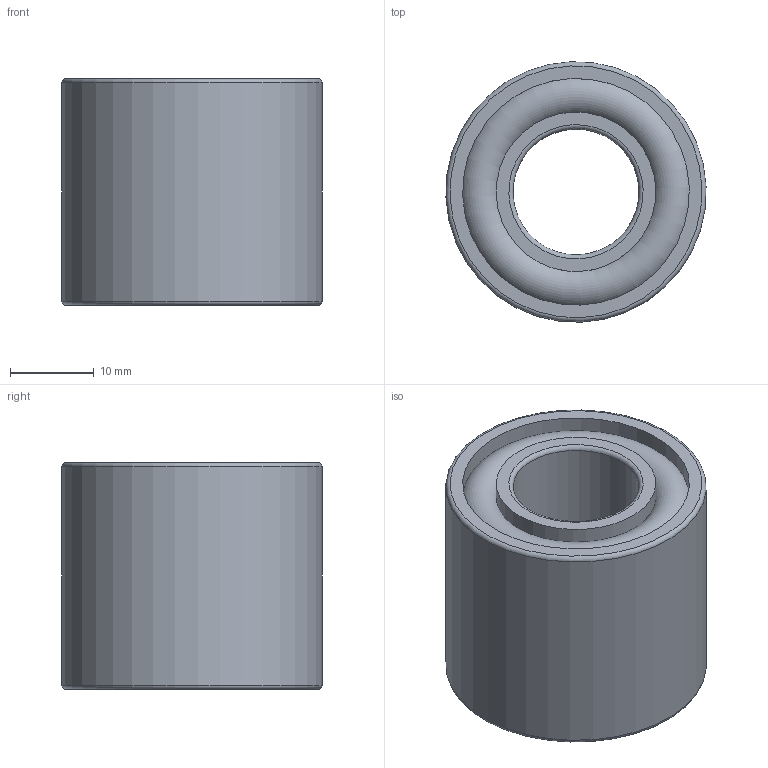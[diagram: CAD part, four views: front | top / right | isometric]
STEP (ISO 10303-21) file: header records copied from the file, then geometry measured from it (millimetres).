
FILE_DESCRIPTION(/* description */ (''),/* implementation_level */ '2;1');
FILE_NAME(/* name */ '300663 FP 427 M.stp',/* time_stamp */ '2016-11-17T13:42:59+01:00',/* author */ (''),/* organization */ (''),/* preprocessor_version */ 'ST-DEVELOPER v15',/* originating_system */ 'SIEMENS PLM Software NX 8.5',/* authorisation */ '');
FILE_SCHEMA (('CONFIG_CONTROL_DESIGN'));
Length unit declared in the file: millimetre
Products named in the file (3): ATE0000080_01; ATE0000093_01; ATE0000095_01
Assembly tree (2 placements, depth 2):
  ATE0000095_01
    ATE0000093_01
    ATE0000080_01
Bounding box: 30.97 x 30.97 x 27 mm (x, y, z)
Volume: 12101.8 mm3; surface area: 12574.2 mm2
Topology: 3 solids, 3 shells, 72 faces, 157 edges, 103 vertices
Faces by surface type: plane 44, cylinder 22, torus 6
Full cylindrical faces by diameter (mm): 15 x1, 19 x3, 23 x1, 24 x1, 25 x1, 26 x2, 27 x4, 31 x1
Entity records: 2128 total; most frequent: DIRECTION 342, CARTESIAN_POINT 299, ORIENTED_EDGE 256, AXIS2_PLACEMENT_3D 139, EDGE_CURVE 128, EDGE_LOOP 112, VERTEX_POINT 96, ADVANCED_FACE 72
